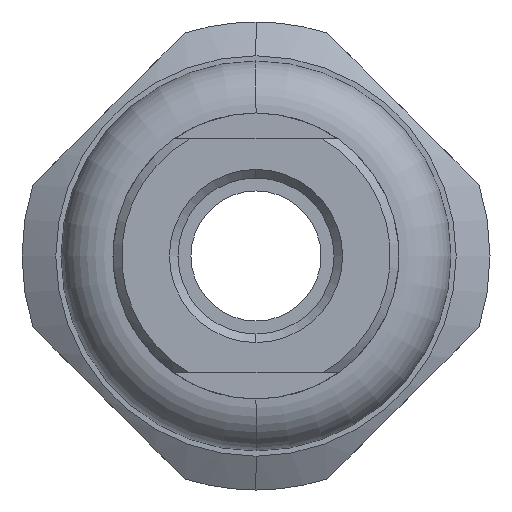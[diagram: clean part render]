
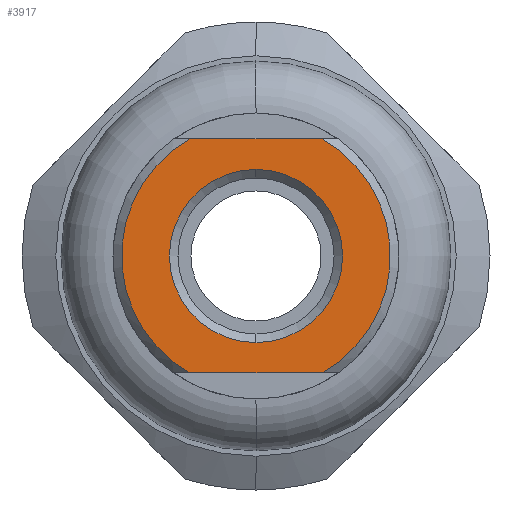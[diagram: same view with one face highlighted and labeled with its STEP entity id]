
A CAD part, left-side view. The second image highlights one B-rep face of the part: STEP entity #3917.
In plain terms, the highlighted planar face has unit normal (-1, 0, 0).
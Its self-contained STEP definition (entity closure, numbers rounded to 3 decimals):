
#1193 = DIRECTION ( 'NONE',  ( 0., 0., 1. ) ) ;
#1194 = DIRECTION ( 'NONE',  ( -1., 0., 0. ) ) ;
#1195 = AXIS2_PLACEMENT_3D ( 'NONE', #1199, #1194, #1193 ) ;
#1196 = CIRCLE ( 'NONE', #1195, 5.17 ) ;
#1199 = CARTESIAN_POINT ( 'NONE',  ( -12.5, 0., 0. ) ) ;
#1609 = CARTESIAN_POINT ( 'NONE',  ( -12.5, 0., 3.33 ) ) ;
#1610 = DIRECTION ( 'NONE',  ( 0., 0., 1. ) ) ;
#1611 = DIRECTION ( 'NONE',  ( 1., 0., 0. ) ) ;
#1612 = CARTESIAN_POINT ( 'NONE',  ( -12.5, 0., 0. ) ) ;
#1613 = AXIS2_PLACEMENT_3D ( 'NONE', #1612, #1611, #1610 ) ;
#1614 = CIRCLE ( 'NONE', #1613, 3.33 ) ;
#1615 = CARTESIAN_POINT ( 'NONE',  ( -12.5, 0., -3.33 ) ) ;
#1889 = DIRECTION ( 'NONE',  ( 0., 0., 1. ) ) ;
#1890 = DIRECTION ( 'NONE',  ( -1., 0., 0. ) ) ;
#1892 = CARTESIAN_POINT ( 'NONE',  ( -12.5, 0., 0. ) ) ;
#1893 = AXIS2_PLACEMENT_3D ( 'NONE', #1892, #1890, #1889 ) ;
#1894 = PLANE ( 'NONE',  #1893 ) ;
#1895 = FACE_OUTER_BOUND ( 'NONE', #4027, .T. ) ;
#1896 = FACE_BOUND ( 'NONE', #3879, .T. ) ;
#1897 = CARTESIAN_POINT ( 'NONE',  ( -12.5, -2.545, 4.5 ) ) ;
#1950 = CARTESIAN_POINT ( 'NONE',  ( -12.5, 2.545, -4.5 ) ) ;
#1960 = CARTESIAN_POINT ( 'NONE',  ( -12.5, -2.545, -4.5 ) ) ;
#2003 = DIRECTION ( 'NONE',  ( 0., -1., 0. ) ) ;
#2004 = VECTOR ( 'NONE', #2003, 1000. ) ;
#2005 = CARTESIAN_POINT ( 'NONE',  ( -12.5, -5.5, -4.5 ) ) ;
#2006 = LINE ( 'NONE', #2005, #2004 ) ;
#2023 = CARTESIAN_POINT ( 'NONE',  ( -12.5, -5.5, 4.5 ) ) ;
#2024 = LINE ( 'NONE', #2023, #2083 ) ;
#2049 = DIRECTION ( 'NONE',  ( 0., 0., 1. ) ) ;
#2050 = DIRECTION ( 'NONE',  ( -1., 0., 0. ) ) ;
#2051 = CARTESIAN_POINT ( 'NONE',  ( -12.5, 0., 0. ) ) ;
#2052 = AXIS2_PLACEMENT_3D ( 'NONE', #2051, #2050, #2049 ) ;
#2053 = CIRCLE ( 'NONE', #2052, 5.17 ) ;
#2054 = CARTESIAN_POINT ( 'NONE',  ( -12.5, 2.545, 4.5 ) ) ;
#2072 = DIRECTION ( 'NONE',  ( 0., 0., 1. ) ) ;
#2073 = DIRECTION ( 'NONE',  ( 1., 0., 0. ) ) ;
#2074 = CARTESIAN_POINT ( 'NONE',  ( -12.5, 0., 0. ) ) ;
#2075 = AXIS2_PLACEMENT_3D ( 'NONE', #2074, #2073, #2072 ) ;
#2076 = CIRCLE ( 'NONE', #2075, 3.33 ) ;
#2082 = DIRECTION ( 'NONE',  ( 0., 1., 0. ) ) ;
#2083 = VECTOR ( 'NONE', #2082, 1000. ) ;
#3565 = ORIENTED_EDGE ( 'NONE', *, *, #3566, .T. ) ;
#3566 = EDGE_CURVE ( 'NONE', #3979, #3949, #1196, .T. ) ;
#3759 = VERTEX_POINT ( 'NONE', #1615 ) ;
#3761 = EDGE_CURVE ( 'NONE', #3762, #3759, #1614, .T. ) ;
#3762 = VERTEX_POINT ( 'NONE', #1609 ) ;
#3879 = EDGE_LOOP ( 'NONE', ( #4028, #4030 ) ) ;
#3917 = ADVANCED_FACE ( 'NONE', ( #1896, #1895 ), #1894, .T. ) ;
#3934 = ORIENTED_EDGE ( 'NONE', *, *, #3996, .T. ) ;
#3949 = VERTEX_POINT ( 'NONE', #1897 ) ;
#3957 = VERTEX_POINT ( 'NONE', #1950 ) ;
#3979 = VERTEX_POINT ( 'NONE', #1960 ) ;
#3996 = EDGE_CURVE ( 'NONE', #3957, #3979, #2006, .T. ) ;
#4008 = EDGE_CURVE ( 'NONE', #4010, #3957, #2053, .T. ) ;
#4009 = ORIENTED_EDGE ( 'NONE', *, *, #4008, .T. ) ;
#4010 = VERTEX_POINT ( 'NONE', #2054 ) ;
#4024 = ORIENTED_EDGE ( 'NONE', *, *, #4029, .T. ) ;
#4027 = EDGE_LOOP ( 'NONE', ( #4024, #4009, #3934, #3565 ) ) ;
#4028 = ORIENTED_EDGE ( 'NONE', *, *, #3761, .T. ) ;
#4029 = EDGE_CURVE ( 'NONE', #3949, #4010, #2024, .T. ) ;
#4030 = ORIENTED_EDGE ( 'NONE', *, *, #4036, .T. ) ;
#4036 = EDGE_CURVE ( 'NONE', #3759, #3762, #2076, .T. ) ;
